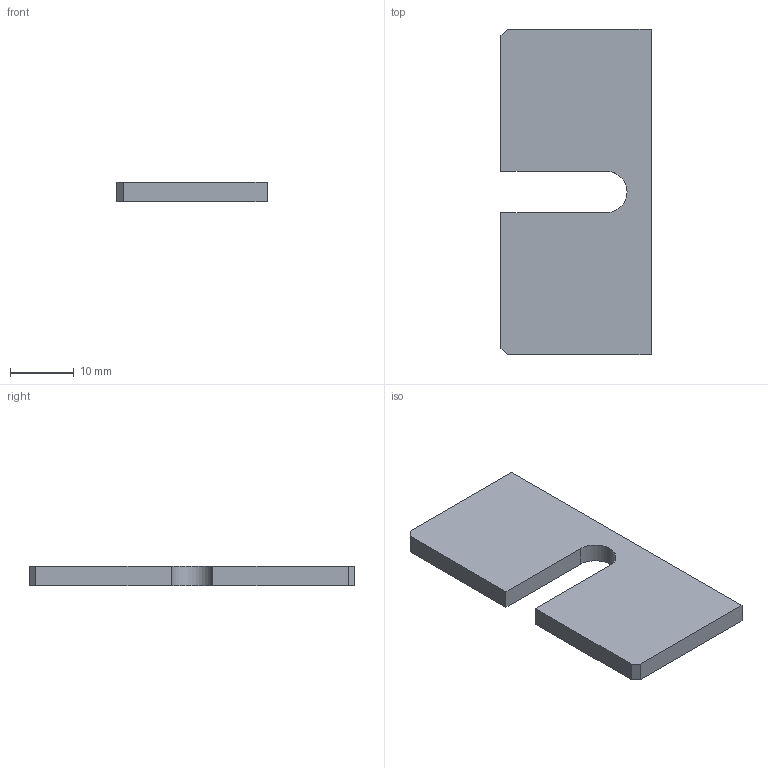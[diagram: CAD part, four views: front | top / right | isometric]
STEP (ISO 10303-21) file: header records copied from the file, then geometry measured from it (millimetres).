
FILE_DESCRIPTION(('CATIA V5 STEP Exchange'),'2;1');
FILE_NAME('D:\姚明阳\1、工装图纸\AGZ100\AGZ100.03_V1.stp','2023-06-09T05:27:50+00:00',('none'),('none'),'CATIA Version 5 Release 21 GA (IN-10)','CATIA V5 STEP AP214','none');
FILE_SCHEMA(('AUTOMOTIVE_DESIGN { 1 0 10303 214 1 1 1 1 }'));
Length unit declared in the file: millimetre
Products named in the file (1): Part1.1
Bounding box: 23.5 x 51 x 3 mm (x, y, z)
Volume: 3221 mm3; surface area: 2700.9 mm2
Topology: 1 solids, 1 shells, 12 faces, 30 edges, 20 vertices
Faces by surface type: plane 11, cylinder 1
Entity records: 371 total; most frequent: CARTESIAN_POINT 62, ORIENTED_EDGE 60, DIRECTION 52, EDGE_CURVE 30, VECTOR 28, LINE 28, VERTEX_POINT 20, AXIS2_PLACEMENT_3D 14
